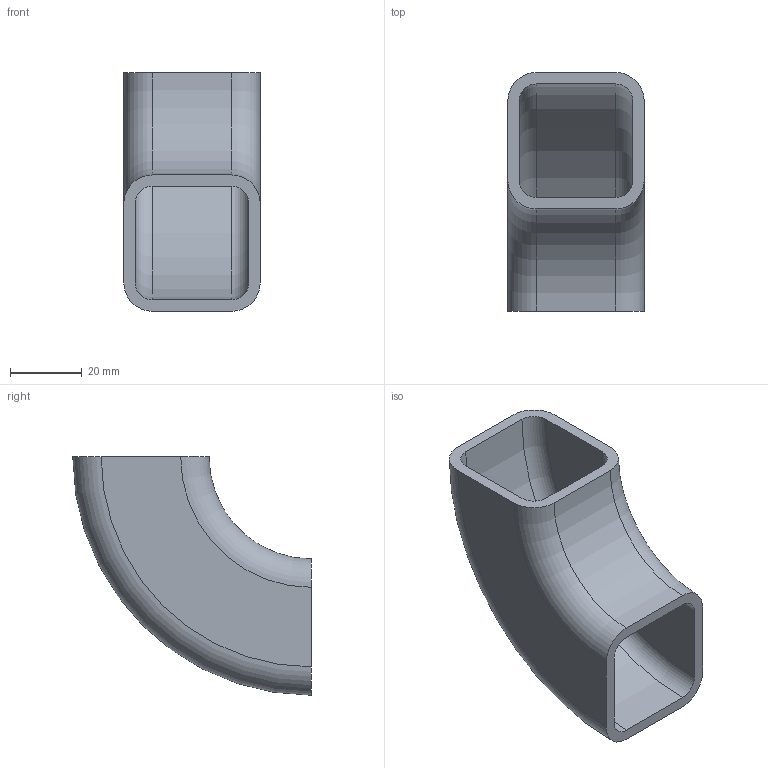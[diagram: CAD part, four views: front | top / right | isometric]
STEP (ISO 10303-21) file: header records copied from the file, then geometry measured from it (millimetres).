
FILE_DESCRIPTION((''),'2;1');
FILE_NAME('C:\Documents and Settings\bamfomg\Desktop\Owens corners\STP FILES\1.5x1.5x0.125 - Steel.stp','2011-03-21T13:13:29',('bamfomg'),(''),'Autodesk Inventor 2011','Autodesk Inventor 2011','');
FILE_SCHEMA(('AUTOMOTIVE_DESIGN { 1 0 10303 214 1 1 1 1 }'));
Length unit declared in the file: inch
Products named in the file (1): Square Tube Corners
Bounding box: 38.1 x 66.67 x 66.67 mm (x, y, z)
Volume: 30592 mm3; surface area: 20088.4 mm2
Topology: 1 solids, 1 shells, 18 faces, 48 edges, 32 vertices
Faces by surface type: torus 8, plane 6, cylinder 4
Entity records: 616 total; most frequent: DIRECTION 118, CARTESIAN_POINT 99, ORIENTED_EDGE 96, AXIS2_PLACEMENT_3D 51, EDGE_CURVE 48, VERTEX_POINT 32, CIRCLE 32, EDGE_LOOP 20
